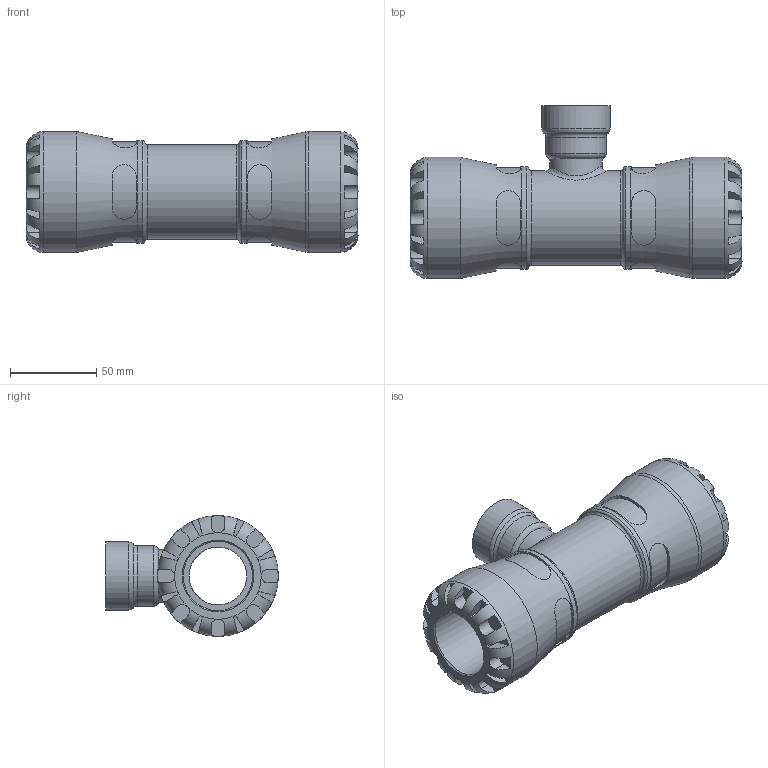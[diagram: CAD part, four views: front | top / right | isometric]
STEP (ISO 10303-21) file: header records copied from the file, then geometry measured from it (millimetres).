
FILE_DESCRIPTION(/* description */ ('PLASSON TEE WITH THREADED FEMALE OFFTAKE 40X1" SERIES 1'),/* implementation_level */ '2;1');
FILE_NAME(/* name */ 'C:\Dropbox\KIMPROJECTS-Inventor\99-16-3568-Processing\S1\53mp\1014\101400040010_191400040010.ipt.stp',/* time_stamp */ '2019-10-29T10:12:11+02:00',/* author */ ('KIM'),/* organization */ (''),/* preprocessor_version */ 'ST-DEVELOPER v15.6',/* originating_system */ 'Autodesk Inventor 2015',/* authorisation */ '');
FILE_SCHEMA (('AUTOMOTIVE_DESIGN { 1 0 10303 214 3 1 1 }'));
Length unit declared in the file: millimetre
Products named in the file (1): 101400040010_191400040010
Bounding box: 192 x 100 x 70 mm (x, y, z)
Volume: 362723.7 mm3; surface area: 78287.2 mm2
Topology: 1 solids, 1 shells, 202 faces, 510 edges, 319 vertices
Faces by surface type: plane 118, cylinder 69, torus 12, cone 2, bspline 1
Full cylindrical faces by diameter (mm): 25.747 x1, 30.291 x2, 33.333 x1, 34.835 x1, 39.378 x1, 40 x2, 54.6 x1, 59.5 x2, 70 x2
Entity records: 7814 total; most frequent: CARTESIAN_POINT 3063, ORIENTED_EDGE 932, DIRECTION 914, EDGE_CURVE 466, AXIS2_PLACEMENT_3D 377, VERTEX_POINT 305, EDGE_LOOP 245, STYLED_ITEM 203
